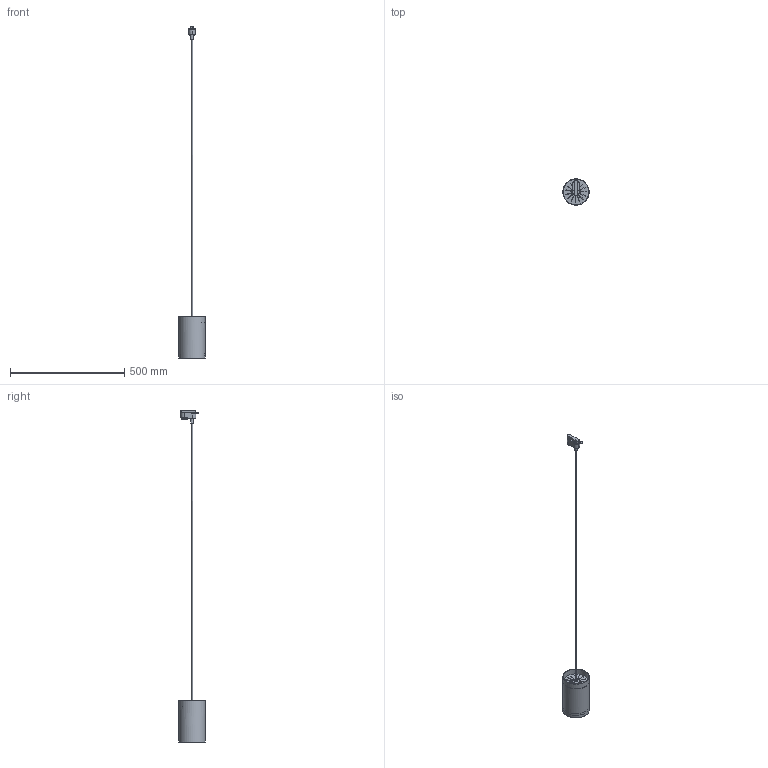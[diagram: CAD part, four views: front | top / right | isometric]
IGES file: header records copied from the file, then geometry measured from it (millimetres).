
Start section: SolidWorks IGES file using NURBS representation for surfaces
Global section: file name: Z:\Modele 3D_WWW\_KOLEKCJE WWW\PROFILE SYSTEM\PROFILE-BIT-8823\PROFILE-BIT-8823.IGS; native system: SolidWorks 2021; preprocessor: SolidWorks 2021; author: gabriela.tworek; date: 220214.094921; units: millimetre
Bounding box: 114.98 x 114.99 x 1450.89 mm (x, y, z)
Surface area: 212809.4 mm2 (no closed solid volume)
Topology: 0 solids, 0 shells, 247 faces, 1426 edges, 1411 vertices
Faces by surface type: bspline 247
